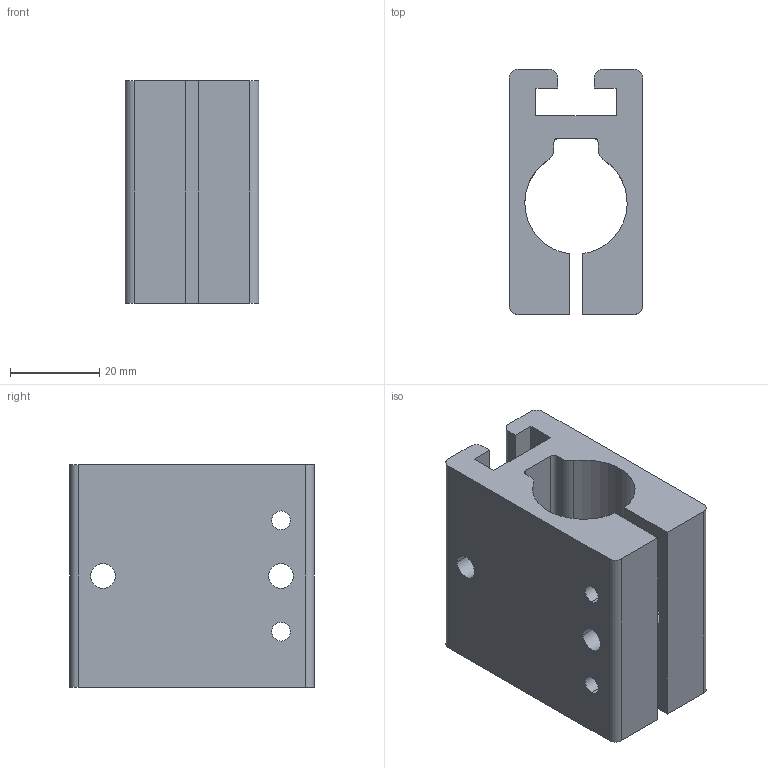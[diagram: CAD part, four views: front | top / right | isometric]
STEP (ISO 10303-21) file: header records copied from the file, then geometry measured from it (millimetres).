
FILE_DESCRIPTION (( 'STEP AP214' ), '1' );
FILE_NAME ('PF01-23x50.STEP', '2004-08-23T05:50:03', ( 'Mitarbeiter' ), ( 'Firma' ), 'SwSTEP 2.0', 'SolidWorks 2001287', '' );
FILE_SCHEMA (( 'AUTOMOTIVE_DESIGN' ));
Length unit declared in the file: millimetre
Products named in the file (1): PF01-23x50
Bounding box: 30 x 55 x 50 mm (x, y, z)
Volume: 46044.8 mm3; surface area: 18820.1 mm2
Topology: 1 solids, 1 shells, 64 faces, 180 edges, 120 vertices
Faces by surface type: cylinder 37, plane 27
Entity records: 2157 total; most frequent: DIRECTION 388, CARTESIAN_POINT 365, ORIENTED_EDGE 360, EDGE_CURVE 180, AXIS2_PLACEMENT_3D 143, VERTEX_POINT 120, LINE 102, VECTOR 102
